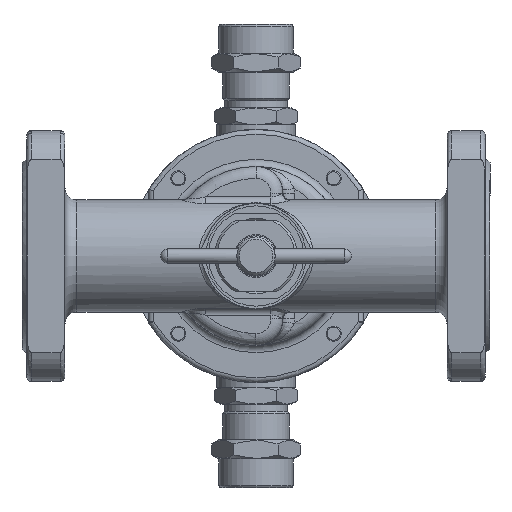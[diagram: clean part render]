
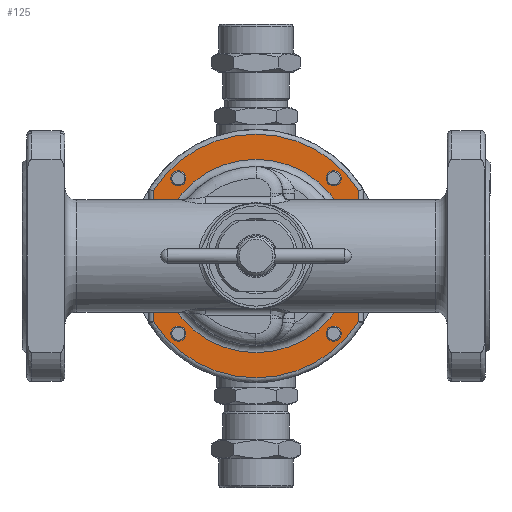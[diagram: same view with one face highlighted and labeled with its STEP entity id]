
A CAD part, front view. The second image highlights one B-rep face of the part: STEP entity #125.
In plain terms, the highlighted planar face has unit normal (0, -1, 0).
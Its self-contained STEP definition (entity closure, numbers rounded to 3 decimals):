
#125=ADVANCED_FACE('',(#4444,#4446,#4448,#4450,#4452,#4454),#4456,.F.);
#4444=FACE_BOUND('',#4445,.T.);
#4445=EDGE_LOOP('',(#21461));
#4446=FACE_BOUND('',#4447,.T.);
#4447=EDGE_LOOP('',(#21462));
#4448=FACE_BOUND('',#4449,.T.);
#4449=EDGE_LOOP('',(#21463));
#4450=FACE_BOUND('',#4451,.T.);
#4451=EDGE_LOOP('',(#21464));
#4452=FACE_BOUND('',#4453,.T.);
#4453=EDGE_LOOP('',(#21465));
#4454=FACE_OUTER_BOUND('',#4455,.T.);
#4455=EDGE_LOOP('',(#21466,#21467,#21468,#21469));
#4456=PLANE('',#4457);
#4457=AXIS2_PLACEMENT_3D('',#4458,#4459,#4460);
#4458=CARTESIAN_POINT('',(0.,30.,0.));
#4459=DIRECTION('',(0.,1.,0.));
#4460=DIRECTION('',(-1.,0.,0.));
#21461=ORIENTED_EDGE('',*,*,#33380,.F.);
#21462=ORIENTED_EDGE('',*,*,#33381,.T.);
#21463=ORIENTED_EDGE('',*,*,#33382,.T.);
#21464=ORIENTED_EDGE('',*,*,#33383,.T.);
#21465=ORIENTED_EDGE('',*,*,#33333,.T.);
#21466=ORIENTED_EDGE('',*,*,#33384,.F.);
#21467=ORIENTED_EDGE('',*,*,#33385,.F.);
#21468=ORIENTED_EDGE('',*,*,#33386,.F.);
#21469=ORIENTED_EDGE('',*,*,#33387,.F.);
#33333=EDGE_CURVE('',#38212,#38212,#38214,.T.);
#33380=EDGE_CURVE('',#38299,#38299,#38300,.T.);
#33381=EDGE_CURVE('',#38301,#38301,#38302,.T.);
#33382=EDGE_CURVE('',#38303,#38303,#38304,.T.);
#33383=EDGE_CURVE('',#38305,#38305,#38306,.T.);
#33384=EDGE_CURVE('',#38307,#38308,#38309,.T.);
#33385=EDGE_CURVE('',#38310,#38307,#38311,.T.);
#33386=EDGE_CURVE('',#38312,#38310,#38313,.T.);
#33387=EDGE_CURVE('',#38308,#38312,#38314,.T.);
#38212=VERTEX_POINT('',#46278);
#38214=CIRCLE('',#46282,3.15);
#38299=VERTEX_POINT('',#46501);
#38300=CIRCLE('',#46502,40.5);
#38301=VERTEX_POINT('',#46506);
#38302=CIRCLE('',#46507,3.15);
#38303=VERTEX_POINT('',#46511);
#38304=CIRCLE('',#46512,3.15);
#38305=VERTEX_POINT('',#46516);
#38306=CIRCLE('',#46517,3.15);
#38307=VERTEX_POINT('',#46521);
#38308=VERTEX_POINT('',#46522);
#38309=CIRCLE('',#46523,51.);
#38310=VERTEX_POINT('',#46527);
#38311=LINE('',#46528,#46529);
#38312=VERTEX_POINT('',#46531);
#38313=CIRCLE('',#46532,51.);
#38314=LINE('',#46536,#46537);
#46278=CARTESIAN_POINT('',(-35.677,30.,32.527));
#46282=AXIS2_PLACEMENT_3D('',#46283,#46284,#46285);
#46283=CARTESIAN_POINT('',(-32.527,30.,32.527));
#46284=DIRECTION('',(0.,1.,0.));
#46285=DIRECTION('',(-1.,0.,0.));
#46501=CARTESIAN_POINT('',(-40.5,30.,0.));
#46502=AXIS2_PLACEMENT_3D('',#46503,#46504,#46505);
#46503=CARTESIAN_POINT('',(0.,30.,0.));
#46504=DIRECTION('',(0.,-1.,0.));
#46505=DIRECTION('',(-1.,0.,0.));
#46506=CARTESIAN_POINT('',(-35.677,30.,-32.527));
#46507=AXIS2_PLACEMENT_3D('',#46508,#46509,#46510);
#46508=CARTESIAN_POINT('',(-32.527,30.,-32.527));
#46509=DIRECTION('',(0.,1.,0.));
#46510=DIRECTION('',(-1.,0.,0.));
#46511=CARTESIAN_POINT('',(29.377,30.,-32.527));
#46512=AXIS2_PLACEMENT_3D('',#46513,#46514,#46515);
#46513=CARTESIAN_POINT('',(32.527,30.,-32.527));
#46514=DIRECTION('',(0.,1.,0.));
#46515=DIRECTION('',(-1.,0.,0.));
#46516=CARTESIAN_POINT('',(29.377,30.,32.527));
#46517=AXIS2_PLACEMENT_3D('',#46518,#46519,#46520);
#46518=CARTESIAN_POINT('',(32.527,30.,32.527));
#46519=DIRECTION('',(0.,1.,0.));
#46520=DIRECTION('',(-1.,0.,0.));
#46521=CARTESIAN_POINT('',(43.,30.,-27.423));
#46522=CARTESIAN_POINT('',(-43.,30.,-27.423));
#46523=AXIS2_PLACEMENT_3D('',#46524,#46525,#46526);
#46524=CARTESIAN_POINT('',(0.,30.,0.));
#46525=DIRECTION('',(0.,1.,0.));
#46526=DIRECTION('',(0.843,0.,-0.538));
#46527=CARTESIAN_POINT('',(43.,30.,27.423));
#46528=CARTESIAN_POINT('',(43.,30.,27.423));
#46529=VECTOR('',#46530,1.);
#46530=DIRECTION('',(0.,0.,-1.));
#46531=CARTESIAN_POINT('',(-43.,30.,27.423));
#46532=AXIS2_PLACEMENT_3D('',#46533,#46534,#46535);
#46533=CARTESIAN_POINT('',(0.,30.,0.));
#46534=DIRECTION('',(0.,1.,0.));
#46535=DIRECTION('',(-0.843,0.,0.538));
#46536=CARTESIAN_POINT('',(-43.,30.,-27.423));
#46537=VECTOR('',#46538,1.);
#46538=DIRECTION('',(0.,0.,1.));
